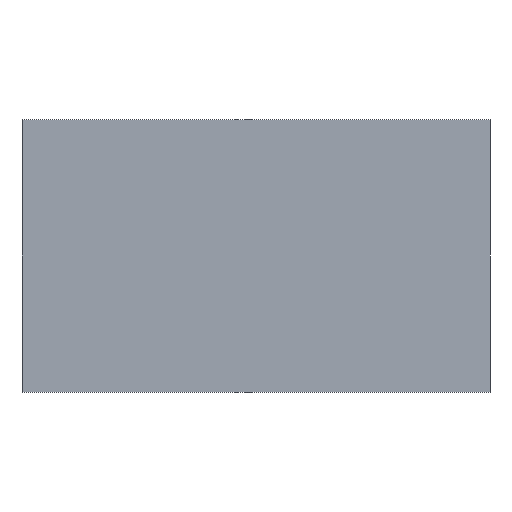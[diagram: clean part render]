
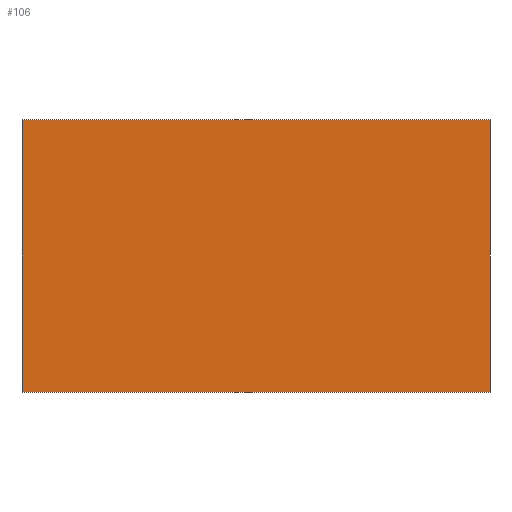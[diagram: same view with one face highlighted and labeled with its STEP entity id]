
A CAD part, front view. The second image highlights one B-rep face of the part: STEP entity #106.
In plain terms, the highlighted planar face has unit normal (0, -1, 0).
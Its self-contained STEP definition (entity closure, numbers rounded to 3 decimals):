
#3 = EDGE_LOOP ( 'NONE', ( #19, #207, #78, #5 ) ) ;
#5 = ORIENTED_EDGE ( 'NONE', *, *, #35, .T. ) ;
#6 = PLANE ( 'NONE',  #225 ) ;
#8 = CARTESIAN_POINT ( 'NONE',  ( 0., 0., 0. ) ) ;
#10 = LINE ( 'NONE', #76, #46 ) ;
#17 = CARTESIAN_POINT ( 'NONE',  ( 255.8, 0., 149. ) ) ;
#19 = ORIENTED_EDGE ( 'NONE', *, *, #69, .T. ) ;
#20 = VECTOR ( 'NONE', #218, 1000. ) ;
#34 = LINE ( 'NONE', #99, #20 ) ;
#35 = EDGE_CURVE ( 'NONE', #80, #63, #170, .T. ) ;
#46 = VECTOR ( 'NONE', #91, 1000. ) ;
#54 = DIRECTION ( 'NONE',  ( 0., 0., -1. ) ) ;
#60 = DIRECTION ( 'NONE',  ( 0., 0., 1. ) ) ;
#63 = VERTEX_POINT ( 'NONE', #8 ) ;
#69 = EDGE_CURVE ( 'NONE', #63, #89, #10, .T. ) ;
#76 = CARTESIAN_POINT ( 'NONE',  ( 0., 0., 0. ) ) ;
#78 = ORIENTED_EDGE ( 'NONE', *, *, #151, .F. ) ;
#80 = VERTEX_POINT ( 'NONE', #227 ) ;
#89 = VERTEX_POINT ( 'NONE', #149 ) ;
#91 = DIRECTION ( 'NONE',  ( 1., 0., 0. ) ) ;
#99 = CARTESIAN_POINT ( 'NONE',  ( 0., 0., 149. ) ) ;
#106 = ADVANCED_FACE ( 'NONE', ( #168 ), #6, .F. ) ;
#132 = CARTESIAN_POINT ( 'NONE',  ( 0., 0., 149. ) ) ;
#138 = CARTESIAN_POINT ( 'NONE',  ( 255.8, 0., 149. ) ) ;
#142 = VERTEX_POINT ( 'NONE', #138 ) ;
#143 = VECTOR ( 'NONE', #196, 1000. ) ;
#149 = CARTESIAN_POINT ( 'NONE',  ( 255.8, 0., 0. ) ) ;
#151 = EDGE_CURVE ( 'NONE', #80, #142, #34, .T. ) ;
#152 = CARTESIAN_POINT ( 'NONE',  ( 0., 0., 149. ) ) ;
#168 = FACE_OUTER_BOUND ( 'NONE', #3, .T. ) ;
#170 = LINE ( 'NONE', #152, #143 ) ;
#171 = VECTOR ( 'NONE', #54, 1000. ) ;
#196 = DIRECTION ( 'NONE',  ( 0., 0., -1. ) ) ;
#201 = EDGE_CURVE ( 'NONE', #142, #89, #233, .T. ) ;
#207 = ORIENTED_EDGE ( 'NONE', *, *, #201, .F. ) ;
#218 = DIRECTION ( 'NONE',  ( 1., 0., 0. ) ) ;
#225 = AXIS2_PLACEMENT_3D ( 'NONE', #132, #228, #60 ) ;
#227 = CARTESIAN_POINT ( 'NONE',  ( 0., 0., 149. ) ) ;
#228 = DIRECTION ( 'NONE',  ( 0., 1., 0. ) ) ;
#233 = LINE ( 'NONE', #17, #171 ) ;
